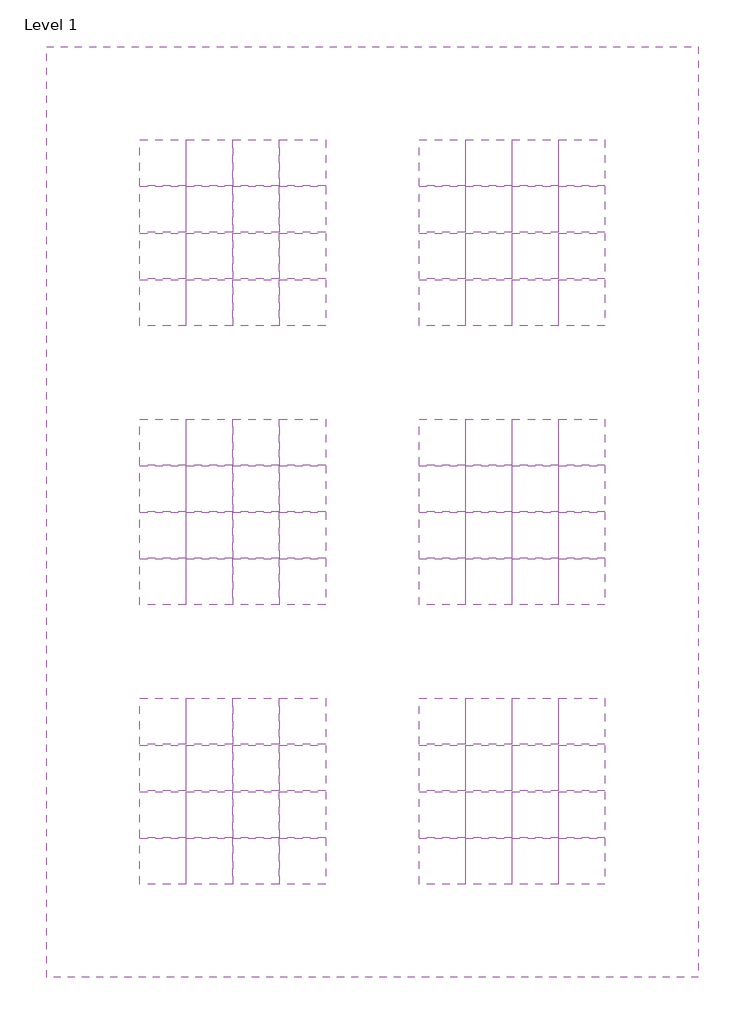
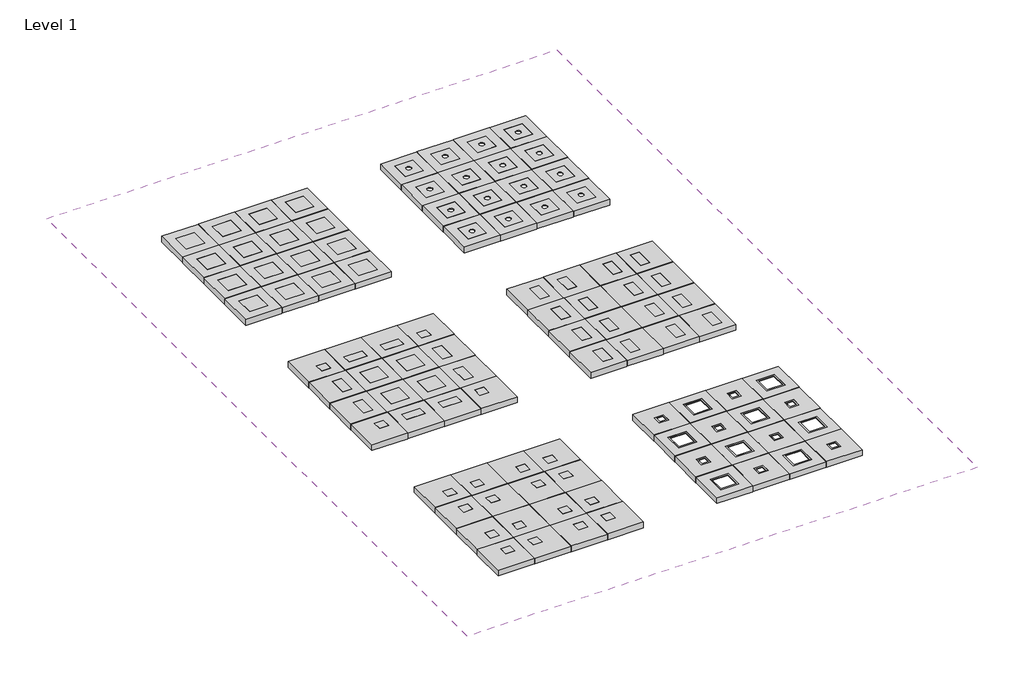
# One storey: 96 proxies, 1 covering.
"""IFC4 building model written with IfcOpenShell, lengths in millimetres."""

from ifc_helpers import new_model, si_unit, frame, origin, place, context, project, spatial, polyline, outline, extrude, transform, mapped, element, save
from components import specialty_equipment_1066766c, specialty_equipment_880822d4, specialty_equipment_06b2a179, specialty_equipment_32588a77, specialty_equipment_e2841fff, specialty_equipment_50710738, specialty_equipment_52b60a44, specialty_equipment_d1a56c86

model = new_model("IFC4")

# Units and contexts
model_context = context("Model", 3, world=origin())
ifc_project = project(units=[si_unit("LENGTHUNIT", "METRE", prefix="MILLI")], contexts=[model_context])

# Site, building, storey
site = spatial("IfcSite", under=ifc_project)
building = spatial("IfcBuilding", under=site)
storey = spatial("IfcBuildingStorey", under=building, Name="Level 1", Elevation=0.0)

# Proxies
placement = place(None, origin())
specialty_equipment_shape = specialty_equipment_1066766c(model_context)
element("IfcBuildingElementProxy", 1, Name="Turf_Pantheon Tile : Pantheon A", ObjectType="Turf_Pantheon Tile : Pantheon A", at=placement, inside=storey, context=model_context, shape_type="MappedRepresentation", body=[
    mapped(specialty_equipment_shape, transform((687.0382689, -4578.5368096, 2438.4), x_axis=(1.0, 0.0, 0.0), y_axis=(0.0, -1.0, 0.0), z_axis=(0.0, 0.0, -1.0))),
])
element("IfcBuildingElementProxy", 2, Name="Turf_Pantheon Tile : Pantheon A", ObjectType="Turf_Pantheon Tile : Pantheon A", at=placement, inside=storey, context=model_context, shape_type="MappedRepresentation", body=[
    mapped(specialty_equipment_shape, transform((1296.6382689, -4578.5368096, 2438.4), x_axis=(1.0, 0.0, 0.0), y_axis=(0.0, -1.0, 0.0), z_axis=(0.0, 0.0, -1.0))),
])
element("IfcBuildingElementProxy", 3, Name="Turf_Pantheon Tile : Pantheon A", ObjectType="Turf_Pantheon Tile : Pantheon A", at=placement, inside=storey, context=model_context, shape_type="MappedRepresentation", body=[
    mapped(specialty_equipment_shape, transform((687.0382689, -5188.1368096, 2438.4), x_axis=(1.0, 0.0, 0.0), y_axis=(0.0, -1.0, 0.0), z_axis=(0.0, 0.0, -1.0))),
])
element("IfcBuildingElementProxy", 4, Name="Turf_Pantheon Tile : Pantheon A", ObjectType="Turf_Pantheon Tile : Pantheon A", at=placement, inside=storey, context=model_context, shape_type="MappedRepresentation", body=[
    mapped(specialty_equipment_shape, transform((1296.6382689, -5188.1368096, 2438.4), x_axis=(1.0, 0.0, 0.0), y_axis=(0.0, -1.0, 0.0), z_axis=(0.0, 0.0, -1.0))),
])
element("IfcBuildingElementProxy", 5, Name="Turf_Pantheon Tile : Pantheon A", ObjectType="Turf_Pantheon Tile : Pantheon A", at=placement, inside=storey, context=model_context, shape_type="MappedRepresentation", body=[
    mapped(specialty_equipment_shape, transform((774.3507689, -235.1368096, 2438.4), x_axis=(-1.0, 0.0, 0.0), y_axis=(0.0, 1.0, 0.0), z_axis=(0.0, 0.0, -1.0))),
])
element("IfcBuildingElementProxy", 6, Name="Turf_Pantheon Tile : Pantheon A", ObjectType="Turf_Pantheon Tile : Pantheon A", at=placement, inside=storey, context=model_context, shape_type="MappedRepresentation", body=[
    mapped(specialty_equipment_shape, transform((1383.9507689, -235.1368096, 2438.4), x_axis=(-1.0, 0.0, 0.0), y_axis=(0.0, 1.0, 0.0), z_axis=(0.0, 0.0, -1.0))),
])
element("IfcBuildingElementProxy", 7, Name="Turf_Pantheon Tile : Pantheon A", ObjectType="Turf_Pantheon Tile : Pantheon A", at=placement, inside=storey, context=model_context, shape_type="MappedRepresentation", body=[
    mapped(specialty_equipment_shape, transform((774.3507689, -844.7368096, 2438.4), x_axis=(-1.0, 0.0, 0.0), y_axis=(0.0, 1.0, 0.0), z_axis=(0.0, 0.0, -1.0))),
])
element("IfcBuildingElementProxy", 8, Name="Turf_Pantheon Tile : Pantheon A", ObjectType="Turf_Pantheon Tile : Pantheon A", at=placement, inside=storey, context=model_context, shape_type="MappedRepresentation", body=[
    mapped(specialty_equipment_shape, transform((1383.9507689, -844.7368096, 2438.4), x_axis=(-1.0, 0.0, 0.0), y_axis=(0.0, 1.0, 0.0), z_axis=(0.0, 0.0, -1.0))),
])
element("IfcBuildingElementProxy", 9, Name="Turf_Pantheon Tile : Pantheon A", ObjectType="Turf_Pantheon Tile : Pantheon A", at=placement, inside=storey, context=model_context, shape_type="MappedRepresentation", body=[
    mapped(specialty_equipment_shape, transform((774.3507689, 374.4631904, 2438.4), x_axis=(-1.0, 0.0, 0.0), y_axis=(0.0, 1.0, 0.0), z_axis=(0.0, 0.0, -1.0))),
])
element("IfcBuildingElementProxy", 10, Name="Turf_Pantheon Tile : Pantheon A", ObjectType="Turf_Pantheon Tile : Pantheon A", at=placement, inside=storey, context=model_context, shape_type="MappedRepresentation", body=[
    mapped(specialty_equipment_shape, transform((1383.9507689, 374.4631904, 2438.4), x_axis=(-1.0, 0.0, 0.0), y_axis=(0.0, 1.0, 0.0), z_axis=(0.0, 0.0, -1.0))),
])
element("IfcBuildingElementProxy", 11, Name="Turf_Pantheon Tile : Pantheon A", ObjectType="Turf_Pantheon Tile : Pantheon A", at=placement, inside=storey, context=model_context, shape_type="MappedRepresentation", body=[
    mapped(specialty_equipment_shape, transform((774.3507689, -1454.3368096, 2438.4), x_axis=(-1.0, 0.0, 0.0), y_axis=(0.0, 1.0, 0.0), z_axis=(0.0, 0.0, -1.0))),
])
element("IfcBuildingElementProxy", 12, Name="Turf_Pantheon Tile : Pantheon A", ObjectType="Turf_Pantheon Tile : Pantheon A", at=placement, inside=storey, context=model_context, shape_type="MappedRepresentation", body=[
    mapped(specialty_equipment_shape, transform((1383.9507689, -1454.3368096, 2438.4), x_axis=(-1.0, 0.0, 0.0), y_axis=(0.0, 1.0, 0.0), z_axis=(0.0, 0.0, -1.0))),
])
element("IfcBuildingElementProxy", 13, Name="Turf_Pantheon Tile : Pantheon A", ObjectType="Turf_Pantheon Tile : Pantheon A", at=placement, inside=storey, context=model_context, shape_type="MappedRepresentation", body=[
    mapped(specialty_equipment_shape, transform((164.7507689, -235.1368096, 2438.4), x_axis=(-1.0, 0.0, 0.0), y_axis=(0.0, 1.0, 0.0), z_axis=(0.0, 0.0, -1.0))),
])
element("IfcBuildingElementProxy", 14, Name="Turf_Pantheon Tile : Pantheon A", ObjectType="Turf_Pantheon Tile : Pantheon A", at=placement, inside=storey, context=model_context, shape_type="MappedRepresentation", body=[
    mapped(specialty_equipment_shape, transform((164.7507689, -844.7368096, 2438.4), x_axis=(-1.0, 0.0, 0.0), y_axis=(0.0, 1.0, 0.0), z_axis=(0.0, 0.0, -1.0))),
])
element("IfcBuildingElementProxy", 15, Name="Turf_Pantheon Tile : Pantheon A", ObjectType="Turf_Pantheon Tile : Pantheon A", at=placement, inside=storey, context=model_context, shape_type="MappedRepresentation", body=[
    mapped(specialty_equipment_shape, transform((164.7507689, 374.4631904, 2438.4), x_axis=(-1.0, 0.0, 0.0), y_axis=(0.0, 1.0, 0.0), z_axis=(0.0, 0.0, -1.0))),
])
element("IfcBuildingElementProxy", 16, Name="Turf_Pantheon Tile : Pantheon A", ObjectType="Turf_Pantheon Tile : Pantheon A", at=placement, inside=storey, context=model_context, shape_type="MappedRepresentation", body=[
    mapped(specialty_equipment_shape, transform((164.7507689, -1454.3368096, 2438.4), x_axis=(-1.0, 0.0, 0.0), y_axis=(0.0, 1.0, 0.0), z_axis=(0.0, 0.0, -1.0))),
])
element("IfcBuildingElementProxy", 17, Name="Turf_Pantheon Tile : Pantheon A", ObjectType="Turf_Pantheon Tile : Pantheon A", at=placement, inside=storey, context=model_context, shape_type="MappedRepresentation", body=[
    mapped(specialty_equipment_shape, transform((1993.5507689, -235.1368096, 2438.4), x_axis=(-1.0, 0.0, 0.0), y_axis=(0.0, 1.0, 0.0), z_axis=(0.0, 0.0, -1.0))),
])
element("IfcBuildingElementProxy", 18, Name="Turf_Pantheon Tile : Pantheon A", ObjectType="Turf_Pantheon Tile : Pantheon A", at=placement, inside=storey, context=model_context, shape_type="MappedRepresentation", body=[
    mapped(specialty_equipment_shape, transform((1993.5507689, -844.7368096, 2438.4), x_axis=(-1.0, 0.0, 0.0), y_axis=(0.0, 1.0, 0.0), z_axis=(0.0, 0.0, -1.0))),
])
element("IfcBuildingElementProxy", 19, Name="Turf_Pantheon Tile : Pantheon A", ObjectType="Turf_Pantheon Tile : Pantheon A", at=placement, inside=storey, context=model_context, shape_type="MappedRepresentation", body=[
    mapped(specialty_equipment_shape, transform((1993.5507689, 374.4631904, 2438.4), x_axis=(-1.0, 0.0, 0.0), y_axis=(0.0, 1.0, 0.0), z_axis=(0.0, 0.0, -1.0))),
])
element("IfcBuildingElementProxy", 20, Name="Turf_Pantheon Tile : Pantheon A", ObjectType="Turf_Pantheon Tile : Pantheon A", at=placement, inside=storey, context=model_context, shape_type="MappedRepresentation", body=[
    mapped(specialty_equipment_shape, transform((1993.5507689, -1454.3368096, 2438.4), x_axis=(-1.0, 0.0, 0.0), y_axis=(0.0, 1.0, 0.0), z_axis=(0.0, 0.0, -1.0))),
])
specialty_equipment_2_shape = specialty_equipment_880822d4(model_context)
element("IfcBuildingElementProxy", 21, Name="Turf_Pantheon Tile : Pantheon C2", ObjectType="Turf_Pantheon Tile : Pantheon C2", at=placement, inside=storey, context=model_context, shape_type="MappedRepresentation", body=[
    mapped(specialty_equipment_2_shape, transform((164.7507689, -3892.7368096, 2438.4), x_axis=(-1.0, 0.0, 0.0), y_axis=(0.0, 1.0, 0.0), z_axis=(0.0, 0.0, -1.0))),
])
element("IfcBuildingElementProxy", 22, Name="Turf_Pantheon Tile : Pantheon C2", ObjectType="Turf_Pantheon Tile : Pantheon C2", at=placement, inside=storey, context=model_context, shape_type="MappedRepresentation", body=[
    mapped(specialty_equipment_2_shape, transform((164.7507689, -4502.3368096, 2438.4), x_axis=(-1.0, 0.0, 0.0), y_axis=(0.0, 1.0, 0.0), z_axis=(0.0, 0.0, -1.0))),
])
element("IfcBuildingElementProxy", 23, Name="Turf_Pantheon Tile : Pantheon C2", ObjectType="Turf_Pantheon Tile : Pantheon C2", at=placement, inside=storey, context=model_context, shape_type="MappedRepresentation", body=[
    mapped(specialty_equipment_2_shape, transform((1906.2382689, -4578.5368096, 2438.4), x_axis=(1.0, 0.0, 0.0), y_axis=(0.0, -1.0, 0.0), z_axis=(0.0, 0.0, -1.0))),
])
element("IfcBuildingElementProxy", 24, Name="Turf_Pantheon Tile : Pantheon C2", ObjectType="Turf_Pantheon Tile : Pantheon C2", at=placement, inside=storey, context=model_context, shape_type="MappedRepresentation", body=[
    mapped(specialty_equipment_2_shape, transform((1906.2382689, -5188.1368096, 2438.4), x_axis=(1.0, 0.0, 0.0), y_axis=(0.0, -1.0, 0.0), z_axis=(0.0, 0.0, -1.0))),
])
element("IfcBuildingElementProxy", 25, Name="Turf_Pantheon Tile : Pantheon C2", ObjectType="Turf_Pantheon Tile : Pantheon C2", at=placement, inside=storey, context=model_context, shape_type="MappedRepresentation", body=[
    mapped(specialty_equipment_2_shape, transform((4344.6382689, -4578.5368096, 2438.4), x_axis=(1.0, 0.0, 0.0), y_axis=(0.0, -1.0, 0.0), z_axis=(0.0, 0.0, -1.0))),
])
element("IfcBuildingElementProxy", 26, Name="Turf_Pantheon Tile : Pantheon C2", ObjectType="Turf_Pantheon Tile : Pantheon C2", at=placement, inside=storey, context=model_context, shape_type="MappedRepresentation", body=[
    mapped(specialty_equipment_2_shape, transform((5041.5507689, -3892.7368096, 2438.4), x_axis=(-1.0, 0.0, 0.0), y_axis=(0.0, 1.0, 0.0), z_axis=(0.0, 0.0, -1.0))),
])
element("IfcBuildingElementProxy", 27, Name="Turf_Pantheon Tile : Pantheon C2", ObjectType="Turf_Pantheon Tile : Pantheon C2", at=placement, inside=storey, context=model_context, shape_type="MappedRepresentation", body=[
    mapped(specialty_equipment_2_shape, transform((4344.6382689, -5188.1368096, 2438.4), x_axis=(1.0, 0.0, 0.0), y_axis=(0.0, -1.0, 0.0), z_axis=(0.0, 0.0, -1.0))),
])
element("IfcBuildingElementProxy", 28, Name="Turf_Pantheon Tile : Pantheon C2", ObjectType="Turf_Pantheon Tile : Pantheon C2", at=placement, inside=storey, context=model_context, shape_type="MappedRepresentation", body=[
    mapped(specialty_equipment_2_shape, transform((5041.5507689, -4502.3368096, 2438.4), x_axis=(-1.0, 0.0, 0.0), y_axis=(0.0, 1.0, 0.0), z_axis=(0.0, 0.0, -1.0))),
])
element("IfcBuildingElementProxy", 29, Name="Turf_Pantheon Tile : Pantheon C2", ObjectType="Turf_Pantheon Tile : Pantheon C2", at=placement, inside=storey, context=model_context, shape_type="MappedRepresentation", body=[
    mapped(specialty_equipment_2_shape, transform((4344.6382689, -3968.9368096, 2438.4), x_axis=(1.0, 0.0, 0.0), y_axis=(0.0, -1.0, 0.0), z_axis=(0.0, 0.0, -1.0))),
])
element("IfcBuildingElementProxy", 30, Name="Turf_Pantheon Tile : Pantheon C2", ObjectType="Turf_Pantheon Tile : Pantheon C2", at=placement, inside=storey, context=model_context, shape_type="MappedRepresentation", body=[
    mapped(specialty_equipment_2_shape, transform((5041.5507689, -3283.1368096, 2438.4), x_axis=(-1.0, 0.0, 0.0), y_axis=(0.0, 1.0, 0.0), z_axis=(0.0, 0.0, -1.0))),
])
element("IfcBuildingElementProxy", 31, Name="Turf_Pantheon Tile : Pantheon C2", ObjectType="Turf_Pantheon Tile : Pantheon C2", at=placement, inside=storey, context=model_context, shape_type="MappedRepresentation", body=[
    mapped(specialty_equipment_2_shape, transform((4344.6382689, -5797.7368096, 2438.4), x_axis=(1.0, 0.0, 0.0), y_axis=(0.0, -1.0, 0.0), z_axis=(0.0, 0.0, -1.0))),
])
element("IfcBuildingElementProxy", 32, Name="Turf_Pantheon Tile : Pantheon C2", ObjectType="Turf_Pantheon Tile : Pantheon C2", at=placement, inside=storey, context=model_context, shape_type="MappedRepresentation", body=[
    mapped(specialty_equipment_2_shape, transform((5041.5507689, -5111.9368096, 2438.4), x_axis=(-1.0, 0.0, 0.0), y_axis=(0.0, 1.0, 0.0), z_axis=(0.0, 0.0, -1.0))),
])
element("IfcBuildingElementProxy", 33, Name="Turf_Pantheon Tile : Pantheon C2", ObjectType="Turf_Pantheon Tile : Pantheon C2", at=placement, inside=storey, context=model_context, shape_type="MappedRepresentation", body=[
    mapped(specialty_equipment_2_shape, transform((3822.3507689, -3892.7368096, 2438.4), x_axis=(-1.0, 0.0, 0.0), y_axis=(0.0, 1.0, 0.0), z_axis=(0.0, 0.0, -1.0))),
])
element("IfcBuildingElementProxy", 34, Name="Turf_Pantheon Tile : Pantheon C2", ObjectType="Turf_Pantheon Tile : Pantheon C2", at=placement, inside=storey, context=model_context, shape_type="MappedRepresentation", body=[
    mapped(specialty_equipment_2_shape, transform((3822.3507689, -4502.3368096, 2438.4), x_axis=(-1.0, 0.0, 0.0), y_axis=(0.0, 1.0, 0.0), z_axis=(0.0, 0.0, -1.0))),
])
element("IfcBuildingElementProxy", 35, Name="Turf_Pantheon Tile : Pantheon C2", ObjectType="Turf_Pantheon Tile : Pantheon C2", at=placement, inside=storey, context=model_context, shape_type="MappedRepresentation", body=[
    mapped(specialty_equipment_2_shape, transform((3822.3507689, -3283.1368096, 2438.4), x_axis=(-1.0, 0.0, 0.0), y_axis=(0.0, 1.0, 0.0), z_axis=(0.0, 0.0, -1.0))),
])
element("IfcBuildingElementProxy", 36, Name="Turf_Pantheon Tile : Pantheon C2", ObjectType="Turf_Pantheon Tile : Pantheon C2", at=placement, inside=storey, context=model_context, shape_type="MappedRepresentation", body=[
    mapped(specialty_equipment_2_shape, transform((3822.3507689, -5111.9368096, 2438.4), x_axis=(-1.0, 0.0, 0.0), y_axis=(0.0, 1.0, 0.0), z_axis=(0.0, 0.0, -1.0))),
])
element("IfcBuildingElementProxy", 37, Name="Turf_Pantheon Tile : Pantheon C2", ObjectType="Turf_Pantheon Tile : Pantheon C2", at=placement, inside=storey, context=model_context, shape_type="MappedRepresentation", body=[
    mapped(specialty_equipment_2_shape, transform((5563.8382689, -4578.5368096, 2438.4), x_axis=(1.0, 0.0, 0.0), y_axis=(0.0, -1.0, 0.0), z_axis=(0.0, 0.0, -1.0))),
])
element("IfcBuildingElementProxy", 38, Name="Turf_Pantheon Tile : Pantheon C2", ObjectType="Turf_Pantheon Tile : Pantheon C2", at=placement, inside=storey, context=model_context, shape_type="MappedRepresentation", body=[
    mapped(specialty_equipment_2_shape, transform((5563.8382689, -5188.1368096, 2438.4), x_axis=(1.0, 0.0, 0.0), y_axis=(0.0, -1.0, 0.0), z_axis=(0.0, 0.0, -1.0))),
])
element("IfcBuildingElementProxy", 39, Name="Turf_Pantheon Tile : Pantheon C2", ObjectType="Turf_Pantheon Tile : Pantheon C2", at=placement, inside=storey, context=model_context, shape_type="MappedRepresentation", body=[
    mapped(specialty_equipment_2_shape, transform((5563.8382689, -3968.9368096, 2438.4), x_axis=(1.0, 0.0, 0.0), y_axis=(0.0, -1.0, 0.0), z_axis=(0.0, 0.0, -1.0))),
])
element("IfcBuildingElementProxy", 40, Name="Turf_Pantheon Tile : Pantheon C2", ObjectType="Turf_Pantheon Tile : Pantheon C2", at=placement, inside=storey, context=model_context, shape_type="MappedRepresentation", body=[
    mapped(specialty_equipment_2_shape, transform((5651.1507689, -5111.9368096, 2438.4), x_axis=(-1.0, 0.0, 0.0), y_axis=(0.0, 1.0, 0.0), z_axis=(0.0, 0.0, -1.0))),
])
specialty_equipment_3_shape = specialty_equipment_06b2a179(model_context)
element("IfcBuildingElementProxy", 41, Name="Turf_Pantheon Tile : Pantheon E1", ObjectType="Turf_Pantheon Tile : Pantheon E1", at=placement, inside=storey, context=model_context, shape_type="MappedRepresentation", body=[
    mapped(specialty_equipment_3_shape, transform((77.4382689, -3968.9368096, 2438.4), x_axis=(1.0, 0.0, 0.0), y_axis=(0.0, -1.0, 0.0), z_axis=(0.0, 0.0, -1.0))),
])
element("IfcBuildingElementProxy", 42, Name="Turf_Pantheon Tile : Pantheon E1", ObjectType="Turf_Pantheon Tile : Pantheon E1", at=placement, inside=storey, context=model_context, shape_type="MappedRepresentation", body=[
    mapped(specialty_equipment_3_shape, transform((1993.5507689, -5111.9368096, 2438.4), x_axis=(-1.0, 0.0, 0.0), y_axis=(0.0, 1.0, 0.0), z_axis=(0.0, 0.0, -1.0))),
])
element("IfcBuildingElementProxy", 43, Name="Turf_Pantheon Tile : Pantheon E1", ObjectType="Turf_Pantheon Tile : Pantheon E1", at=placement, inside=storey, context=model_context, shape_type="MappedRepresentation", body=[
    mapped(specialty_equipment_3_shape, transform((774.3507689, -7550.3368096, 2438.4), x_axis=(-1.0, 0.0, 0.0), y_axis=(0.0, 1.0, 0.0), z_axis=(0.0, 0.0, -1.0))),
])
element("IfcBuildingElementProxy", 44, Name="Turf_Pantheon Tile : Pantheon E1", ObjectType="Turf_Pantheon Tile : Pantheon E1", at=placement, inside=storey, context=model_context, shape_type="MappedRepresentation", body=[
    mapped(specialty_equipment_3_shape, transform((77.4382689, -7626.5368096, 2438.4), x_axis=(1.0, 0.0, 0.0), y_axis=(0.0, -1.0, 0.0), z_axis=(0.0, 0.0, -1.0))),
])
element("IfcBuildingElementProxy", 45, Name="Turf_Pantheon Tile : Pantheon E1", ObjectType="Turf_Pantheon Tile : Pantheon E1", at=placement, inside=storey, context=model_context, shape_type="MappedRepresentation", body=[
    mapped(specialty_equipment_3_shape, transform((1993.5507689, -7550.3368096, 2438.4), x_axis=(-1.0, 0.0, 0.0), y_axis=(0.0, 1.0, 0.0), z_axis=(0.0, 0.0, -1.0))),
])
element("IfcBuildingElementProxy", 46, Name="Turf_Pantheon Tile : Pantheon E1", ObjectType="Turf_Pantheon Tile : Pantheon E1", at=placement, inside=storey, context=model_context, shape_type="MappedRepresentation", body=[
    mapped(specialty_equipment_3_shape, transform((1296.6382689, -7626.5368096, 2438.4), x_axis=(1.0, 0.0, 0.0), y_axis=(0.0, -1.0, 0.0), z_axis=(0.0, 0.0, -1.0))),
])
element("IfcBuildingElementProxy", 47, Name="Turf_Pantheon Tile : Pantheon E1", ObjectType="Turf_Pantheon Tile : Pantheon E1", at=placement, inside=storey, context=model_context, shape_type="MappedRepresentation", body=[
    mapped(specialty_equipment_3_shape, transform((774.3507689, -8769.5368096, 2438.4), x_axis=(-1.0, 0.0, 0.0), y_axis=(0.0, 1.0, 0.0), z_axis=(0.0, 0.0, -1.0))),
])
element("IfcBuildingElementProxy", 48, Name="Turf_Pantheon Tile : Pantheon E1", ObjectType="Turf_Pantheon Tile : Pantheon E1", at=placement, inside=storey, context=model_context, shape_type="MappedRepresentation", body=[
    mapped(specialty_equipment_3_shape, transform((77.4382689, -8845.7368096, 2438.4), x_axis=(1.0, 0.0, 0.0), y_axis=(0.0, -1.0, 0.0), z_axis=(0.0, 0.0, -1.0))),
])
element("IfcBuildingElementProxy", 49, Name="Turf_Pantheon Tile : Pantheon E1", ObjectType="Turf_Pantheon Tile : Pantheon E1", at=placement, inside=storey, context=model_context, shape_type="MappedRepresentation", body=[
    mapped(specialty_equipment_3_shape, transform((1993.5507689, -8769.5368096, 2438.4), x_axis=(-1.0, 0.0, 0.0), y_axis=(0.0, 1.0, 0.0), z_axis=(0.0, 0.0, -1.0))),
])
element("IfcBuildingElementProxy", 50, Name="Turf_Pantheon Tile : Pantheon E1", ObjectType="Turf_Pantheon Tile : Pantheon E1", at=placement, inside=storey, context=model_context, shape_type="MappedRepresentation", body=[
    mapped(specialty_equipment_3_shape, transform((1296.6382689, -8845.7368096, 2438.4), x_axis=(1.0, 0.0, 0.0), y_axis=(0.0, -1.0, 0.0), z_axis=(0.0, 0.0, -1.0))),
])
specialty_equipment_4_shape = specialty_equipment_32588a77(model_context)
element("IfcBuildingElementProxy", 51, Name="Turf_Pantheon Tile : Pantheon C1", ObjectType="Turf_Pantheon Tile : Pantheon C1", at=placement, inside=storey, context=model_context, shape_type="MappedRepresentation", body=[
    mapped(specialty_equipment_4_shape, transform((774.3507689, -3283.1368096, 2438.4), x_axis=(-1.0, 0.0, 0.0), y_axis=(0.0, 1.0, 0.0), z_axis=(0.0, 0.0, -1.0))),
])
element("IfcBuildingElementProxy", 52, Name="Turf_Pantheon Tile : Pantheon C1", ObjectType="Turf_Pantheon Tile : Pantheon C1", at=placement, inside=storey, context=model_context, shape_type="MappedRepresentation", body=[
    mapped(specialty_equipment_4_shape, transform((1383.9507689, -3283.1368096, 2438.4), x_axis=(-1.0, 0.0, 0.0), y_axis=(0.0, 1.0, 0.0), z_axis=(0.0, 0.0, -1.0))),
])
element("IfcBuildingElementProxy", 53, Name="Turf_Pantheon Tile : Pantheon C1", ObjectType="Turf_Pantheon Tile : Pantheon C1", at=placement, inside=storey, context=model_context, shape_type="MappedRepresentation", body=[
    mapped(specialty_equipment_4_shape, transform((687.0382689, -5797.7368096, 2438.4), x_axis=(1.0, 0.0, 0.0), y_axis=(0.0, -1.0, 0.0), z_axis=(0.0, 0.0, -1.0))),
])
element("IfcBuildingElementProxy", 54, Name="Turf_Pantheon Tile : Pantheon C1", ObjectType="Turf_Pantheon Tile : Pantheon C1", at=placement, inside=storey, context=model_context, shape_type="MappedRepresentation", body=[
    mapped(specialty_equipment_4_shape, transform((1296.6382689, -5797.7368096, 2438.4), x_axis=(1.0, 0.0, 0.0), y_axis=(0.0, -1.0, 0.0), z_axis=(0.0, 0.0, -1.0))),
])
specialty_equipment_5_shape = specialty_equipment_e2841fff(model_context)
element("IfcBuildingElementProxy", 55, Name="Turf_Pantheon Tile : Pantheon E2", ObjectType="Turf_Pantheon Tile : Pantheon E2", at=placement, inside=storey, context=model_context, shape_type="MappedRepresentation", body=[
    mapped(specialty_equipment_5_shape, transform((77.4382689, -5797.7368096, 2438.4), x_axis=(1.0, 0.0, 0.0), y_axis=(0.0, -1.0, 0.0), z_axis=(0.0, 0.0, -1.0))),
])
element("IfcBuildingElementProxy", 56, Name="Turf_Pantheon Tile : Pantheon E2", ObjectType="Turf_Pantheon Tile : Pantheon E2", at=placement, inside=storey, context=model_context, shape_type="MappedRepresentation", body=[
    mapped(specialty_equipment_5_shape, transform((1993.5507689, -3283.1368096, 2438.4), x_axis=(-1.0, 0.0, 0.0), y_axis=(0.0, 1.0, 0.0), z_axis=(0.0, 0.0, -1.0))),
])
element("IfcBuildingElementProxy", 57, Name="Turf_Pantheon Tile : Pantheon E2", ObjectType="Turf_Pantheon Tile : Pantheon E2", at=placement, inside=storey, context=model_context, shape_type="MappedRepresentation", body=[
    mapped(specialty_equipment_5_shape, transform((774.3507689, -6940.7368096, 2438.4), x_axis=(-1.0, 0.0, 0.0), y_axis=(0.0, 1.0, 0.0), z_axis=(0.0, 0.0, -1.0))),
])
element("IfcBuildingElementProxy", 58, Name="Turf_Pantheon Tile : Pantheon E2", ObjectType="Turf_Pantheon Tile : Pantheon E2", at=placement, inside=storey, context=model_context, shape_type="MappedRepresentation", body=[
    mapped(specialty_equipment_5_shape, transform((77.4382689, -8236.1368096, 2438.4), x_axis=(1.0, 0.0, 0.0), y_axis=(0.0, -1.0, 0.0), z_axis=(0.0, 0.0, -1.0))),
])
element("IfcBuildingElementProxy", 59, Name="Turf_Pantheon Tile : Pantheon E2", ObjectType="Turf_Pantheon Tile : Pantheon E2", at=placement, inside=storey, context=model_context, shape_type="MappedRepresentation", body=[
    mapped(specialty_equipment_5_shape, transform((1993.5507689, -6940.7368096, 2438.4), x_axis=(-1.0, 0.0, 0.0), y_axis=(0.0, 1.0, 0.0), z_axis=(0.0, 0.0, -1.0))),
])
element("IfcBuildingElementProxy", 60, Name="Turf_Pantheon Tile : Pantheon E2", ObjectType="Turf_Pantheon Tile : Pantheon E2", at=placement, inside=storey, context=model_context, shape_type="MappedRepresentation", body=[
    mapped(specialty_equipment_5_shape, transform((1296.6382689, -8236.1368096, 2438.4), x_axis=(1.0, 0.0, 0.0), y_axis=(0.0, -1.0, 0.0), z_axis=(0.0, 0.0, -1.0))),
])
element("IfcBuildingElementProxy", 61, Name="Turf_Pantheon Tile : Pantheon E2", ObjectType="Turf_Pantheon Tile : Pantheon E2", at=placement, inside=storey, context=model_context, shape_type="MappedRepresentation", body=[
    mapped(specialty_equipment_5_shape, transform((774.3507689, -8159.9368096, 2438.4), x_axis=(-1.0, 0.0, 0.0), y_axis=(0.0, 1.0, 0.0), z_axis=(0.0, 0.0, -1.0))),
])
element("IfcBuildingElementProxy", 62, Name="Turf_Pantheon Tile : Pantheon E2", ObjectType="Turf_Pantheon Tile : Pantheon E2", at=placement, inside=storey, context=model_context, shape_type="MappedRepresentation", body=[
    mapped(specialty_equipment_5_shape, transform((77.4382689, -9455.3368096, 2438.4), x_axis=(1.0, 0.0, 0.0), y_axis=(0.0, -1.0, 0.0), z_axis=(0.0, 0.0, -1.0))),
])
element("IfcBuildingElementProxy", 63, Name="Turf_Pantheon Tile : Pantheon E2", ObjectType="Turf_Pantheon Tile : Pantheon E2", at=placement, inside=storey, context=model_context, shape_type="MappedRepresentation", body=[
    mapped(specialty_equipment_5_shape, transform((1993.5507689, -8159.9368096, 2438.4), x_axis=(-1.0, 0.0, 0.0), y_axis=(0.0, 1.0, 0.0), z_axis=(0.0, 0.0, -1.0))),
])
element("IfcBuildingElementProxy", 64, Name="Turf_Pantheon Tile : Pantheon E2", ObjectType="Turf_Pantheon Tile : Pantheon E2", at=placement, inside=storey, context=model_context, shape_type="MappedRepresentation", body=[
    mapped(specialty_equipment_5_shape, transform((1296.6382689, -9455.3368096, 2438.4), x_axis=(1.0, 0.0, 0.0), y_axis=(0.0, -1.0, 0.0), z_axis=(0.0, 0.0, -1.0))),
])
specialty_equipment_6_shape = specialty_equipment_50710738(model_context)
element("IfcBuildingElementProxy", 65, Name="Turf_Pantheon Tile : Pantheon F", ObjectType="Turf_Pantheon Tile : Pantheon F", at=placement, inside=storey, context=model_context, shape_type="MappedRepresentation", body=[
    mapped(specialty_equipment_6_shape, transform((4431.9507689, -7550.3368096, 2438.4), x_axis=(-1.0, 0.0, 0.0), y_axis=(0.0, 1.0, 0.0), z_axis=(0.0, 0.0, -1.0))),
])
element("IfcBuildingElementProxy", 66, Name="Turf_Pantheon Tile : Pantheon F", ObjectType="Turf_Pantheon Tile : Pantheon F", at=placement, inside=storey, context=model_context, shape_type="MappedRepresentation", body=[
    mapped(specialty_equipment_6_shape, transform((3822.3507689, -6940.7368096, 2438.4), x_axis=(-1.0, 0.0, 0.0), y_axis=(0.0, 1.0, 0.0), z_axis=(0.0, 0.0, -1.0))),
])
element("IfcBuildingElementProxy", 67, Name="Turf_Pantheon Tile : Pantheon F", ObjectType="Turf_Pantheon Tile : Pantheon F", at=placement, inside=storey, context=model_context, shape_type="MappedRepresentation", body=[
    mapped(specialty_equipment_6_shape, transform((5651.1507689, -7550.3368096, 2438.4), x_axis=(-1.0, 0.0, 0.0), y_axis=(0.0, 1.0, 0.0), z_axis=(0.0, 0.0, -1.0))),
])
element("IfcBuildingElementProxy", 68, Name="Turf_Pantheon Tile : Pantheon F", ObjectType="Turf_Pantheon Tile : Pantheon F", at=placement, inside=storey, context=model_context, shape_type="MappedRepresentation", body=[
    mapped(specialty_equipment_6_shape, transform((5041.5507689, -6940.7368096, 2438.4), x_axis=(-1.0, 0.0, 0.0), y_axis=(0.0, 1.0, 0.0), z_axis=(0.0, 0.0, -1.0))),
])
element("IfcBuildingElementProxy", 69, Name="Turf_Pantheon Tile : Pantheon F", ObjectType="Turf_Pantheon Tile : Pantheon F", at=placement, inside=storey, context=model_context, shape_type="MappedRepresentation", body=[
    mapped(specialty_equipment_6_shape, transform((4431.9507689, -8769.5368096, 2438.4), x_axis=(-1.0, 0.0, 0.0), y_axis=(0.0, 1.0, 0.0), z_axis=(0.0, 0.0, -1.0))),
])
element("IfcBuildingElementProxy", 70, Name="Turf_Pantheon Tile : Pantheon F", ObjectType="Turf_Pantheon Tile : Pantheon F", at=placement, inside=storey, context=model_context, shape_type="MappedRepresentation", body=[
    mapped(specialty_equipment_6_shape, transform((3822.3507689, -8159.9368096, 2438.4), x_axis=(-1.0, 0.0, 0.0), y_axis=(0.0, 1.0, 0.0), z_axis=(0.0, 0.0, -1.0))),
])
element("IfcBuildingElementProxy", 71, Name="Turf_Pantheon Tile : Pantheon F", ObjectType="Turf_Pantheon Tile : Pantheon F", at=placement, inside=storey, context=model_context, shape_type="MappedRepresentation", body=[
    mapped(specialty_equipment_6_shape, transform((5651.1507689, -8769.5368096, 2438.4), x_axis=(-1.0, 0.0, 0.0), y_axis=(0.0, 1.0, 0.0), z_axis=(0.0, 0.0, -1.0))),
])
element("IfcBuildingElementProxy", 72, Name="Turf_Pantheon Tile : Pantheon F", ObjectType="Turf_Pantheon Tile : Pantheon F", at=placement, inside=storey, context=model_context, shape_type="MappedRepresentation", body=[
    mapped(specialty_equipment_6_shape, transform((5041.5507689, -8159.9368096, 2438.4), x_axis=(-1.0, 0.0, 0.0), y_axis=(0.0, 1.0, 0.0), z_axis=(0.0, 0.0, -1.0))),
])
specialty_equipment_7_shape = specialty_equipment_52b60a44(model_context)
element("IfcBuildingElementProxy", 73, Name="Turf_Pantheon Tile : Pantheon A", ObjectType="Turf_Pantheon Tile : Pantheon A", at=placement, inside=storey, context=model_context, shape_type="MappedRepresentation", body=[
    mapped(specialty_equipment_7_shape, transform((4431.9507689, -6940.7368096, 2438.4), x_axis=(-1.0, 0.0, 0.0), y_axis=(0.0, 1.0, 0.0), z_axis=(0.0, 0.0, -1.0))),
])
element("IfcBuildingElementProxy", 74, Name="Turf_Pantheon Tile : Pantheon A", ObjectType="Turf_Pantheon Tile : Pantheon A", at=placement, inside=storey, context=model_context, shape_type="MappedRepresentation", body=[
    mapped(specialty_equipment_7_shape, transform((3822.3507689, -7550.3368096, 2438.4), x_axis=(-1.0, 0.0, 0.0), y_axis=(0.0, 1.0, 0.0), z_axis=(0.0, 0.0, -1.0))),
])
element("IfcBuildingElementProxy", 75, Name="Turf_Pantheon Tile : Pantheon A", ObjectType="Turf_Pantheon Tile : Pantheon A", at=placement, inside=storey, context=model_context, shape_type="MappedRepresentation", body=[
    mapped(specialty_equipment_7_shape, transform((5651.1507689, -6940.7368096, 2438.4), x_axis=(-1.0, 0.0, 0.0), y_axis=(0.0, 1.0, 0.0), z_axis=(0.0, 0.0, -1.0))),
])
element("IfcBuildingElementProxy", 76, Name="Turf_Pantheon Tile : Pantheon A", ObjectType="Turf_Pantheon Tile : Pantheon A", at=placement, inside=storey, context=model_context, shape_type="MappedRepresentation", body=[
    mapped(specialty_equipment_7_shape, transform((5041.5507689, -7550.3368096, 2438.4), x_axis=(-1.0, 0.0, 0.0), y_axis=(0.0, 1.0, 0.0), z_axis=(0.0, 0.0, -1.0))),
])
element("IfcBuildingElementProxy", 77, Name="Turf_Pantheon Tile : Pantheon A", ObjectType="Turf_Pantheon Tile : Pantheon A", at=placement, inside=storey, context=model_context, shape_type="MappedRepresentation", body=[
    mapped(specialty_equipment_7_shape, transform((4431.9507689, -8159.9368096, 2438.4), x_axis=(-1.0, 0.0, 0.0), y_axis=(0.0, 1.0, 0.0), z_axis=(0.0, 0.0, -1.0))),
])
element("IfcBuildingElementProxy", 78, Name="Turf_Pantheon Tile : Pantheon A", ObjectType="Turf_Pantheon Tile : Pantheon A", at=placement, inside=storey, context=model_context, shape_type="MappedRepresentation", body=[
    mapped(specialty_equipment_7_shape, transform((3822.3507689, -8769.5368096, 2438.4), x_axis=(-1.0, 0.0, 0.0), y_axis=(0.0, 1.0, 0.0), z_axis=(0.0, 0.0, -1.0))),
])
element("IfcBuildingElementProxy", 79, Name="Turf_Pantheon Tile : Pantheon A", ObjectType="Turf_Pantheon Tile : Pantheon A", at=placement, inside=storey, context=model_context, shape_type="MappedRepresentation", body=[
    mapped(specialty_equipment_7_shape, transform((5651.1507689, -8159.9368096, 2438.4), x_axis=(-1.0, 0.0, 0.0), y_axis=(0.0, 1.0, 0.0), z_axis=(0.0, 0.0, -1.0))),
])
element("IfcBuildingElementProxy", 80, Name="Turf_Pantheon Tile : Pantheon A", ObjectType="Turf_Pantheon Tile : Pantheon A", at=placement, inside=storey, context=model_context, shape_type="MappedRepresentation", body=[
    mapped(specialty_equipment_7_shape, transform((5041.5507689, -8769.5368096, 2438.4), x_axis=(-1.0, 0.0, 0.0), y_axis=(0.0, 1.0, 0.0), z_axis=(0.0, 0.0, -1.0))),
])
specialty_equipment_8_shape = specialty_equipment_d1a56c86(model_context)
element("IfcBuildingElementProxy", 81, Name="Turf_Pantheon Tile : Pantheon A", ObjectType="Turf_Pantheon Tile : Pantheon A", at=placement, inside=storey, context=model_context, shape_type="MappedRepresentation", body=[
    mapped(specialty_equipment_8_shape, transform((4431.9507689, -235.1368096, 2438.4), x_axis=(-1.0, 0.0, 0.0), y_axis=(0.0, 1.0, 0.0), z_axis=(0.0, 0.0, -1.0))),
])
element("IfcBuildingElementProxy", 82, Name="Turf_Pantheon Tile : Pantheon A", ObjectType="Turf_Pantheon Tile : Pantheon A", at=placement, inside=storey, context=model_context, shape_type="MappedRepresentation", body=[
    mapped(specialty_equipment_8_shape, transform((5041.5507689, -235.1368096, 2438.4), x_axis=(-1.0, 0.0, 0.0), y_axis=(0.0, 1.0, 0.0), z_axis=(0.0, 0.0, -1.0))),
])
element("IfcBuildingElementProxy", 83, Name="Turf_Pantheon Tile : Pantheon A", ObjectType="Turf_Pantheon Tile : Pantheon A", at=placement, inside=storey, context=model_context, shape_type="MappedRepresentation", body=[
    mapped(specialty_equipment_8_shape, transform((4431.9507689, -844.7368096, 2438.4), x_axis=(-1.0, 0.0, 0.0), y_axis=(0.0, 1.0, 0.0), z_axis=(0.0, 0.0, -1.0))),
])
element("IfcBuildingElementProxy", 84, Name="Turf_Pantheon Tile : Pantheon A", ObjectType="Turf_Pantheon Tile : Pantheon A", at=placement, inside=storey, context=model_context, shape_type="MappedRepresentation", body=[
    mapped(specialty_equipment_8_shape, transform((5041.5507689, -844.7368096, 2438.4), x_axis=(-1.0, 0.0, 0.0), y_axis=(0.0, 1.0, 0.0), z_axis=(0.0, 0.0, -1.0))),
])
element("IfcBuildingElementProxy", 85, Name="Turf_Pantheon Tile : Pantheon A", ObjectType="Turf_Pantheon Tile : Pantheon A", at=placement, inside=storey, context=model_context, shape_type="MappedRepresentation", body=[
    mapped(specialty_equipment_8_shape, transform((4431.9507689, 374.4631904, 2438.4), x_axis=(-1.0, 0.0, 0.0), y_axis=(0.0, 1.0, 0.0), z_axis=(0.0, 0.0, -1.0))),
])
element("IfcBuildingElementProxy", 86, Name="Turf_Pantheon Tile : Pantheon A", ObjectType="Turf_Pantheon Tile : Pantheon A", at=placement, inside=storey, context=model_context, shape_type="MappedRepresentation", body=[
    mapped(specialty_equipment_8_shape, transform((5041.5507689, 374.4631904, 2438.4), x_axis=(-1.0, 0.0, 0.0), y_axis=(0.0, 1.0, 0.0), z_axis=(0.0, 0.0, -1.0))),
])
element("IfcBuildingElementProxy", 87, Name="Turf_Pantheon Tile : Pantheon A", ObjectType="Turf_Pantheon Tile : Pantheon A", at=placement, inside=storey, context=model_context, shape_type="MappedRepresentation", body=[
    mapped(specialty_equipment_8_shape, transform((4431.9507689, -1454.3368096, 2438.4), x_axis=(-1.0, 0.0, 0.0), y_axis=(0.0, 1.0, 0.0), z_axis=(0.0, 0.0, -1.0))),
])
element("IfcBuildingElementProxy", 88, Name="Turf_Pantheon Tile : Pantheon A", ObjectType="Turf_Pantheon Tile : Pantheon A", at=placement, inside=storey, context=model_context, shape_type="MappedRepresentation", body=[
    mapped(specialty_equipment_8_shape, transform((5041.5507689, -1454.3368096, 2438.4), x_axis=(-1.0, 0.0, 0.0), y_axis=(0.0, 1.0, 0.0), z_axis=(0.0, 0.0, -1.0))),
])
element("IfcBuildingElementProxy", 89, Name="Turf_Pantheon Tile : Pantheon A", ObjectType="Turf_Pantheon Tile : Pantheon A", at=placement, inside=storey, context=model_context, shape_type="MappedRepresentation", body=[
    mapped(specialty_equipment_8_shape, transform((3822.3507689, -235.1368096, 2438.4), x_axis=(-1.0, 0.0, 0.0), y_axis=(0.0, 1.0, 0.0), z_axis=(0.0, 0.0, -1.0))),
])
element("IfcBuildingElementProxy", 90, Name="Turf_Pantheon Tile : Pantheon A", ObjectType="Turf_Pantheon Tile : Pantheon A", at=placement, inside=storey, context=model_context, shape_type="MappedRepresentation", body=[
    mapped(specialty_equipment_8_shape, transform((3822.3507689, -844.7368096, 2438.4), x_axis=(-1.0, 0.0, 0.0), y_axis=(0.0, 1.0, 0.0), z_axis=(0.0, 0.0, -1.0))),
])
element("IfcBuildingElementProxy", 91, Name="Turf_Pantheon Tile : Pantheon A", ObjectType="Turf_Pantheon Tile : Pantheon A", at=placement, inside=storey, context=model_context, shape_type="MappedRepresentation", body=[
    mapped(specialty_equipment_8_shape, transform((3822.3507689, 374.4631904, 2438.4), x_axis=(-1.0, 0.0, 0.0), y_axis=(0.0, 1.0, 0.0), z_axis=(0.0, 0.0, -1.0))),
])
element("IfcBuildingElementProxy", 92, Name="Turf_Pantheon Tile : Pantheon A", ObjectType="Turf_Pantheon Tile : Pantheon A", at=placement, inside=storey, context=model_context, shape_type="MappedRepresentation", body=[
    mapped(specialty_equipment_8_shape, transform((3822.3507689, -1454.3368096, 2438.4), x_axis=(-1.0, 0.0, 0.0), y_axis=(0.0, 1.0, 0.0), z_axis=(0.0, 0.0, -1.0))),
])
element("IfcBuildingElementProxy", 93, Name="Turf_Pantheon Tile : Pantheon A", ObjectType="Turf_Pantheon Tile : Pantheon A", at=placement, inside=storey, context=model_context, shape_type="MappedRepresentation", body=[
    mapped(specialty_equipment_8_shape, transform((5651.1507689, -235.1368096, 2438.4), x_axis=(-1.0, 0.0, 0.0), y_axis=(0.0, 1.0, 0.0), z_axis=(0.0, 0.0, -1.0))),
])
element("IfcBuildingElementProxy", 94, Name="Turf_Pantheon Tile : Pantheon A", ObjectType="Turf_Pantheon Tile : Pantheon A", at=placement, inside=storey, context=model_context, shape_type="MappedRepresentation", body=[
    mapped(specialty_equipment_8_shape, transform((5651.1507689, -844.7368096, 2438.4), x_axis=(-1.0, 0.0, 0.0), y_axis=(0.0, 1.0, 0.0), z_axis=(0.0, 0.0, -1.0))),
])
element("IfcBuildingElementProxy", 95, Name="Turf_Pantheon Tile : Pantheon A", ObjectType="Turf_Pantheon Tile : Pantheon A", at=placement, inside=storey, context=model_context, shape_type="MappedRepresentation", body=[
    mapped(specialty_equipment_8_shape, transform((5651.1507689, 374.4631904, 2438.4), x_axis=(-1.0, 0.0, 0.0), y_axis=(0.0, 1.0, 0.0), z_axis=(0.0, 0.0, -1.0))),
])
element("IfcBuildingElementProxy", 96, Name="Turf_Pantheon Tile : Pantheon A", ObjectType="Turf_Pantheon Tile : Pantheon A", at=placement, inside=storey, context=model_context, shape_type="MappedRepresentation", body=[
    mapped(specialty_equipment_8_shape, transform((5651.1507689, -1454.3368096, 2438.4), x_axis=(-1.0, 0.0, 0.0), y_axis=(0.0, 1.0, 0.0), z_axis=(0.0, 0.0, -1.0))),
])

# Covering
element("IfcCovering", 97, ObjectType="2' x 2' ACT System", at=placement, inside=storey, context=model_context, shape_type="SweptSolid", body=[
    extrude(outline(polyline([(7131.4945189, 1555.5631904), (7131.4945189, -10636.4368096), (-1402.9054811, -10636.4368096), (-1402.9054811, 1555.5631904), (7131.4945189, 1555.5631904)])), frame((0.0, 0.0, 2438.4), z_axis=(0.0, 0.0, 1.0), x_axis=(1.0, 0.0, 0.0)), (0.0, 0.0, 1.0), 57.15),
])

save(model, "model.ifc")
